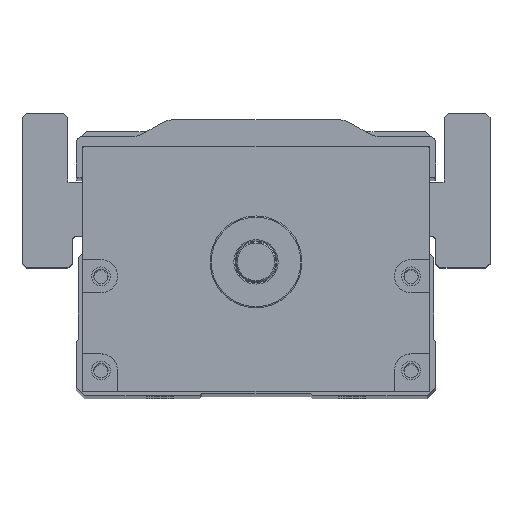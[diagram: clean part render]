
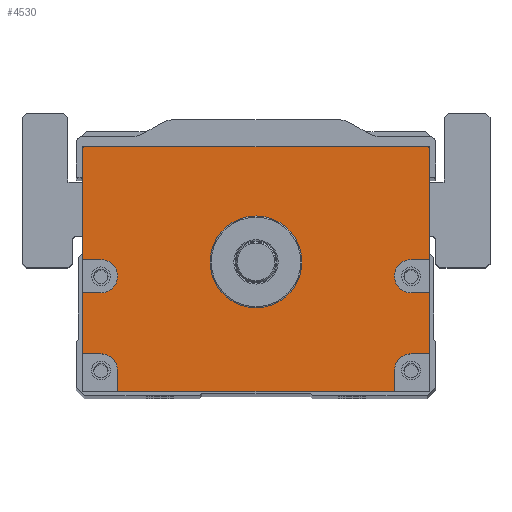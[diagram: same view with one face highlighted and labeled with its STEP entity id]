
A CAD part, top view. The second image highlights one B-rep face of the part: STEP entity #4530.
In plain terms, the highlighted planar face has unit normal (0, 0, 1).
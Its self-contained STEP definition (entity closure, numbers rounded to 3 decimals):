
#4530=ADVANCED_FACE('',(#7107,#7108),#5039,.T.);
#5039=PLANE('',#15333);
#5701=LINE('',#21903,#6538);
#5703=LINE('',#21911,#6540);
#5704=LINE('',#21914,#6541);
#5705=LINE('',#21916,#6542);
#5706=LINE('',#21920,#6543);
#5707=LINE('',#21922,#6544);
#5708=LINE('',#21923,#6545);
#5709=LINE('',#21925,#6546);
#5710=LINE('',#21929,#6547);
#5711=LINE('',#21931,#6548);
#5712=LINE('',#21933,#6549);
#5713=LINE('',#21937,#6550);
#5714=LINE('',#21939,#6551);
#5715=LINE('',#21941,#6552);
#6538=VECTOR('',#17727,1.);
#6540=VECTOR('',#17735,1.);
#6541=VECTOR('',#17736,1.);
#6542=VECTOR('',#17737,1.);
#6543=VECTOR('',#17740,1.);
#6544=VECTOR('',#17741,1.);
#6545=VECTOR('',#17742,1.);
#6546=VECTOR('',#17743,1.);
#6547=VECTOR('',#17746,1.);
#6548=VECTOR('',#17747,1.);
#6549=VECTOR('',#17748,1.);
#6550=VECTOR('',#17751,1.);
#6551=VECTOR('',#17752,1.);
#6552=VECTOR('',#17753,1.);
#7107=FACE_BOUND('',#7929,.T.);
#7108=FACE_BOUND('',#7930,.T.);
#7929=EDGE_LOOP('',(#10244,#10245,#10246,#10247,#10248,#10249,#10250,#10251,
#10252,#10253,#10254,#10255,#10256,#10257,#10258,#10259,#10260,#10261));
#7930=EDGE_LOOP('',(#10262));
#10244=ORIENTED_EDGE('',*,*,#13558,.F.);
#10245=ORIENTED_EDGE('',*,*,#13559,.T.);
#10246=ORIENTED_EDGE('',*,*,#13560,.F.);
#10247=ORIENTED_EDGE('',*,*,#13561,.F.);
#10248=ORIENTED_EDGE('',*,*,#13562,.F.);
#10249=ORIENTED_EDGE('',*,*,#13563,.T.);
#10250=ORIENTED_EDGE('',*,*,#13554,.T.);
#10251=ORIENTED_EDGE('',*,*,#13564,.T.);
#10252=ORIENTED_EDGE('',*,*,#13565,.F.);
#10253=ORIENTED_EDGE('',*,*,#13566,.F.);
#10254=ORIENTED_EDGE('',*,*,#13567,.F.);
#10255=ORIENTED_EDGE('',*,*,#13568,.T.);
#10256=ORIENTED_EDGE('',*,*,#13569,.F.);
#10257=ORIENTED_EDGE('',*,*,#13570,.F.);
#10258=ORIENTED_EDGE('',*,*,#13571,.F.);
#10259=ORIENTED_EDGE('',*,*,#13572,.T.);
#10260=ORIENTED_EDGE('',*,*,#13573,.F.);
#10261=ORIENTED_EDGE('',*,*,#13574,.F.);
#10262=ORIENTED_EDGE('',*,*,#13540,.T.);
#12140=VERTEX_POINT('',#21874);
#12153=VERTEX_POINT('',#21902);
#12154=VERTEX_POINT('',#21904);
#12157=VERTEX_POINT('',#21912);
#12158=VERTEX_POINT('',#21913);
#12159=VERTEX_POINT('',#21915);
#12160=VERTEX_POINT('',#21917);
#12161=VERTEX_POINT('',#21919);
#12162=VERTEX_POINT('',#21921);
#12163=VERTEX_POINT('',#21924);
#12164=VERTEX_POINT('',#21926);
#12165=VERTEX_POINT('',#21928);
#12166=VERTEX_POINT('',#21930);
#12167=VERTEX_POINT('',#21932);
#12168=VERTEX_POINT('',#21934);
#12169=VERTEX_POINT('',#21936);
#12170=VERTEX_POINT('',#21938);
#12171=VERTEX_POINT('',#21940);
#12172=VERTEX_POINT('',#21942);
#13540=EDGE_CURVE('',#12140,#12140,#14424,.T.);
#13554=EDGE_CURVE('',#12154,#12153,#5701,.T.);
#13558=EDGE_CURVE('',#12157,#12158,#5703,.T.);
#13559=EDGE_CURVE('',#12157,#12159,#5704,.T.);
#13560=EDGE_CURVE('',#12160,#12159,#5705,.T.);
#13561=EDGE_CURVE('',#12161,#12160,#14435,.T.);
#13562=EDGE_CURVE('',#12162,#12161,#5706,.T.);
#13563=EDGE_CURVE('',#12162,#12154,#5707,.T.);
#13564=EDGE_CURVE('',#12153,#12163,#5708,.T.);
#13565=EDGE_CURVE('',#12164,#12163,#5709,.T.);
#13566=EDGE_CURVE('',#12165,#12164,#14436,.T.);
#13567=EDGE_CURVE('',#12166,#12165,#5710,.T.);
#13568=EDGE_CURVE('',#12166,#12167,#5711,.T.);
#13569=EDGE_CURVE('',#12168,#12167,#5712,.T.);
#13570=EDGE_CURVE('',#12169,#12168,#14437,.T.);
#13571=EDGE_CURVE('',#12170,#12169,#5713,.T.);
#13572=EDGE_CURVE('',#12170,#12171,#5714,.T.);
#13573=EDGE_CURVE('',#12172,#12171,#5715,.T.);
#13574=EDGE_CURVE('',#12158,#12172,#14438,.T.);
#14424=CIRCLE('',#15315,11.);
#14435=CIRCLE('',#15329,4.);
#14436=CIRCLE('',#15330,4.);
#14437=CIRCLE('',#15331,4.);
#14438=CIRCLE('',#15332,4.);
#15315=AXIS2_PLACEMENT_3D('',#21873,#17700,#17701);
#15329=AXIS2_PLACEMENT_3D('',#21918,#17738,#17739);
#15330=AXIS2_PLACEMENT_3D('',#21927,#17744,#17745);
#15331=AXIS2_PLACEMENT_3D('',#21935,#17749,#17750);
#15332=AXIS2_PLACEMENT_3D('',#21943,#17754,#17755);
#15333=AXIS2_PLACEMENT_3D('',#21944,#17756,#17757);
#17700=DIRECTION('',(0.,0.,-1.));
#17701=DIRECTION('',(1.,0.,0.));
#17727=DIRECTION('',(-1.,0.,0.));
#17735=DIRECTION('',(-1.,0.,0.));
#17736=DIRECTION('',(0.,1.,0.));
#17737=DIRECTION('',(1.,0.,0.));
#17738=DIRECTION('',(0.,0.,1.));
#17739=DIRECTION('',(1.,0.,0.));
#17740=DIRECTION('',(-1.,0.,0.));
#17741=DIRECTION('',(0.,1.,0.));
#17742=DIRECTION('',(0.,-1.,0.));
#17743=DIRECTION('',(-1.,0.,0.));
#17744=DIRECTION('',(0.,0.,1.));
#17745=DIRECTION('',(1.,0.,0.));
#17746=DIRECTION('',(1.,0.,0.));
#17747=DIRECTION('',(0.,-1.,0.));
#17748=DIRECTION('',(-1.,0.,0.));
#17749=DIRECTION('',(0.,0.,1.));
#17750=DIRECTION('',(1.,0.,0.));
#17751=DIRECTION('',(0.,1.,0.));
#17752=DIRECTION('',(1.,0.,0.));
#17753=DIRECTION('',(0.,-1.,0.));
#17754=DIRECTION('',(0.,0.,1.));
#17755=DIRECTION('',(1.,0.,0.));
#17756=DIRECTION('',(0.,0.,1.));
#17757=DIRECTION('',(1.,0.,0.));
#21873=CARTESIAN_POINT('',(600.,0.,282.5));
#21874=CARTESIAN_POINT('',(611.,0.,282.5));
#21902=CARTESIAN_POINT('',(558.5,27.5,282.5));
#21903=CARTESIAN_POINT('',(641.5,27.5,282.5));
#21904=CARTESIAN_POINT('',(641.5,27.5,282.5));
#21911=CARTESIAN_POINT('',(641.5,-22.,282.5));
#21912=CARTESIAN_POINT('',(641.5,-22.,282.5));
#21913=CARTESIAN_POINT('',(637.115,-22.,282.5));
#21914=CARTESIAN_POINT('',(641.5,-31.,282.5));
#21915=CARTESIAN_POINT('',(641.5,-7.431,282.5));
#21916=CARTESIAN_POINT('',(641.5,-7.431,282.5));
#21917=CARTESIAN_POINT('',(637.115,-7.431,282.5));
#21918=CARTESIAN_POINT('',(637.115,-3.431,282.5));
#21919=CARTESIAN_POINT('',(637.115,0.569,282.5));
#21920=CARTESIAN_POINT('',(641.5,0.569,282.5));
#21921=CARTESIAN_POINT('',(641.5,0.569,282.5));
#21922=CARTESIAN_POINT('',(641.5,-31.,282.5));
#21923=CARTESIAN_POINT('',(558.5,27.5,282.5));
#21924=CARTESIAN_POINT('',(558.5,0.569,282.5));
#21925=CARTESIAN_POINT('',(641.5,0.569,282.5));
#21926=CARTESIAN_POINT('',(562.885,0.569,282.5));
#21927=CARTESIAN_POINT('',(562.885,-3.431,282.5));
#21928=CARTESIAN_POINT('',(562.885,-7.431,282.5));
#21929=CARTESIAN_POINT('',(641.5,-7.431,282.5));
#21930=CARTESIAN_POINT('',(558.5,-7.431,282.5));
#21931=CARTESIAN_POINT('',(558.5,27.5,282.5));
#21932=CARTESIAN_POINT('',(558.5,-22.,282.5));
#21933=CARTESIAN_POINT('',(641.5,-22.,282.5));
#21934=CARTESIAN_POINT('',(562.885,-22.,282.5));
#21935=CARTESIAN_POINT('',(562.885,-26.,282.5));
#21936=CARTESIAN_POINT('',(566.885,-26.,282.5));
#21937=CARTESIAN_POINT('',(566.885,-31.,282.5));
#21938=CARTESIAN_POINT('',(566.885,-31.,282.5));
#21939=CARTESIAN_POINT('',(558.5,-31.,282.5));
#21940=CARTESIAN_POINT('',(633.115,-31.,282.5));
#21941=CARTESIAN_POINT('',(633.115,-31.,282.5));
#21942=CARTESIAN_POINT('',(633.115,-26.,282.5));
#21943=CARTESIAN_POINT('',(637.115,-26.,282.5));
#21944=CARTESIAN_POINT('',(641.5,-31.,282.5));
